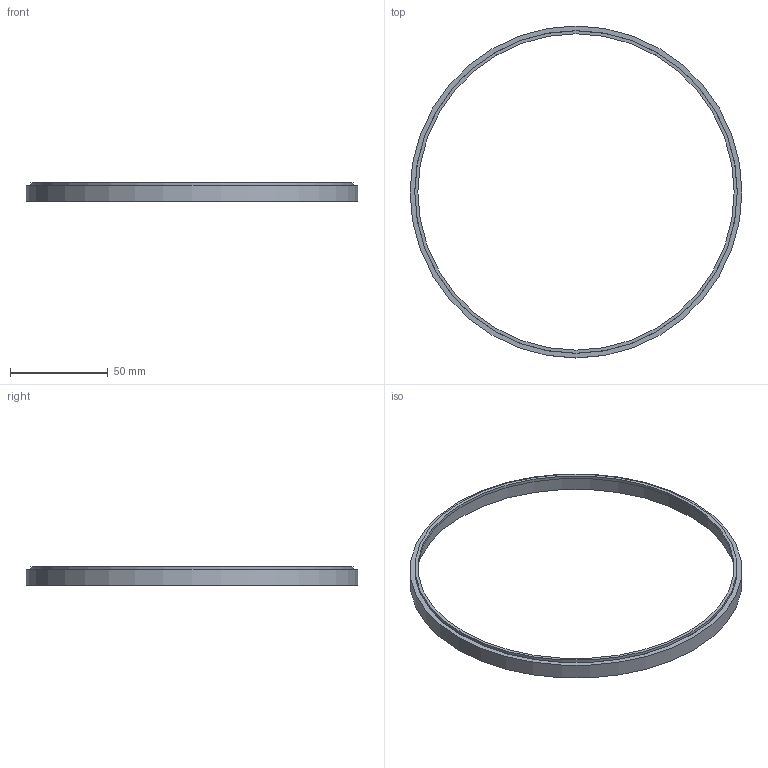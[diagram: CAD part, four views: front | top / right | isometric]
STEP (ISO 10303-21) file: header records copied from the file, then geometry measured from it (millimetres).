
FILE_DESCRIPTION(('Open CASCADE Model'),'2;1');
FILE_NAME('Open CASCADE Shape Model','2026-10-20T19:46:47',('Author'),( 'Open CASCADE'),'Open CASCADE STEP processor 8.0','build123d', 'Unknown');
FILE_SCHEMA(('AUTOMOTIVE_DESIGN { 1 0 10303 214 1 1 1 1 }'));
Length unit declared in the file: millimetre
Products named in the file (2): =>[0:1:1:2]; COMPOUND
Assembly tree (1 placements, depth 2):
  =>[0:1:1:2]
    COMPOUND
Bounding box: 170 x 170 x 9.5 mm (x, y, z)
Volume: 11304 mm3; surface area: 14086.1 mm2
Topology: 2 solids, 2 shells, 8 faces, 12 edges, 8 vertices
Faces by surface type: cylinder 4, plane 4
Full cylindrical faces by diameter (mm): 162 x1, 165.1 x1, 165.2 x1, 170 x1
Entity records: 374 total; most frequent: DIRECTION 64, CARTESIAN_POINT 54, ORIENTED_EDGE 24, PCURVE 24, DEFINITIONAL_REPRESENTATION 24, LINE 20, VECTOR 20, AXIS2_PLACEMENT_3D 18
